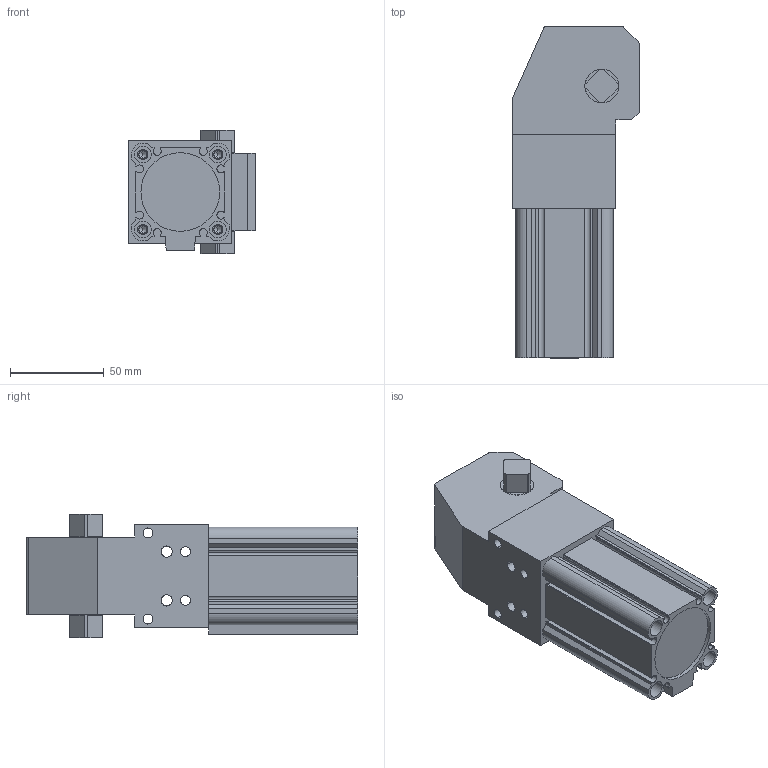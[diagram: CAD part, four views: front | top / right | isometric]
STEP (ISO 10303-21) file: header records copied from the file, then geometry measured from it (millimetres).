
FILE_DESCRIPTION (( 'STEP AP203' ), '1' );
FILE_NAME ('BC-40-S-90.STEP', '2017-02-15T11:13:38', ( '' ), ( '' ), 'SwSTEP 2.0', 'SolidWorks 2012', '' );
FILE_SCHEMA (( 'CONFIG_CONTROL_DESIGN' ));
Length unit declared in the file: millimetre
Products named in the file (4): BC-40-S-90; S-40-40; BC40S-1; BC40S-2
Assembly tree (3 placements, depth 2):
  BC-40-S-90
    BC40S-2
    BC40S-1
    S-40-40
Bounding box: 67.5 x 177 x 66 mm (x, y, z)
Volume: 371628.4 mm3; surface area: 82496.7 mm2
Topology: 3 solids, 3 shells, 205 faces, 532 edges, 344 vertices
Faces by surface type: plane 98, cylinder 95, cone 12
Entity records: 6822 total; most frequent: CARTESIAN_POINT 1215, DIRECTION 1132, ORIENTED_EDGE 1048, EDGE_CURVE 524, AXIS2_PLACEMENT_3D 405, VERTEX_POINT 344, VECTOR 322, LINE 322
